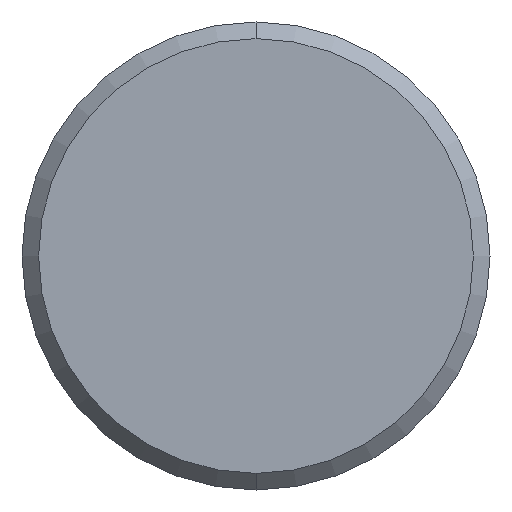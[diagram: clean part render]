
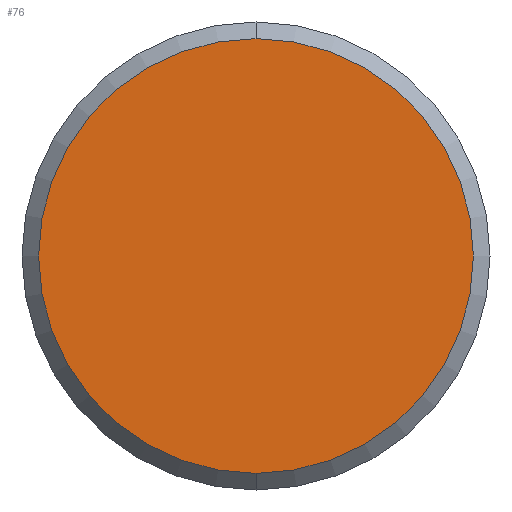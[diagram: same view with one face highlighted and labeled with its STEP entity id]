
A CAD part, front view. The second image highlights one B-rep face of the part: STEP entity #76.
In plain terms, the highlighted planar face has unit normal (0, -1, 0).
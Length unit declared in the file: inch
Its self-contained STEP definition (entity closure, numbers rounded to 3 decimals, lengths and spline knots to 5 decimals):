
#38 = DIRECTION ( 'NONE',  ( 0., 0., -1. ) ) ;
#39 = DIRECTION ( 'NONE',  ( 0., -1., 0. ) ) ;
#40 = CARTESIAN_POINT ( 'NONE',  ( -1.47587, 0.44069, 0. ) ) ;
#50 = PLANE ( 'NONE',  #727 ) ;
#76 = ADVANCED_FACE ( 'NONE', ( #349 ), #50, .T. ) ;
#225 = CARTESIAN_POINT ( 'NONE',  ( -2.15987, 0.44069, -0.8175 ) ) ;
#282 = VERTEX_POINT ( 'NONE', #225 ) ;
#349 = FACE_OUTER_BOUND ( 'NONE', #904, .T. ) ;
#502 = CIRCLE ( 'NONE', #629, 0.8175 ) ;
#609 = EDGE_CURVE ( 'NONE', #282, #869, #830, .T. ) ;
#629 = AXIS2_PLACEMENT_3D ( 'NONE', #1461, #1462, #1463 ) ;
#640 = AXIS2_PLACEMENT_3D ( 'NONE', #1058, #1059, #1060 ) ;
#727 = AXIS2_PLACEMENT_3D ( 'NONE', #40, #39, #38 ) ;
#783 = EDGE_CURVE ( 'NONE', #869, #282, #502, .T. ) ;
#830 = CIRCLE ( 'NONE', #640, 0.8175 ) ;
#869 = VERTEX_POINT ( 'NONE', #1328 ) ;
#904 = EDGE_LOOP ( 'NONE', ( #948, #944 ) ) ;
#944 = ORIENTED_EDGE ( 'NONE', *, *, #609, .T. ) ;
#948 = ORIENTED_EDGE ( 'NONE', *, *, #783, .T. ) ;
#1058 = CARTESIAN_POINT ( 'NONE',  ( -2.15987, 0.44069, 0. ) ) ;
#1059 = DIRECTION ( 'NONE',  ( 0., -1., 0. ) ) ;
#1060 = DIRECTION ( 'NONE',  ( 0., 0., 1. ) ) ;
#1328 = CARTESIAN_POINT ( 'NONE',  ( -2.15987, 0.44069, 0.8175 ) ) ;
#1461 = CARTESIAN_POINT ( 'NONE',  ( -2.15987, 0.44069, 0. ) ) ;
#1462 = DIRECTION ( 'NONE',  ( 0., -1., 0. ) ) ;
#1463 = DIRECTION ( 'NONE',  ( 0., 0., 1. ) ) ;
